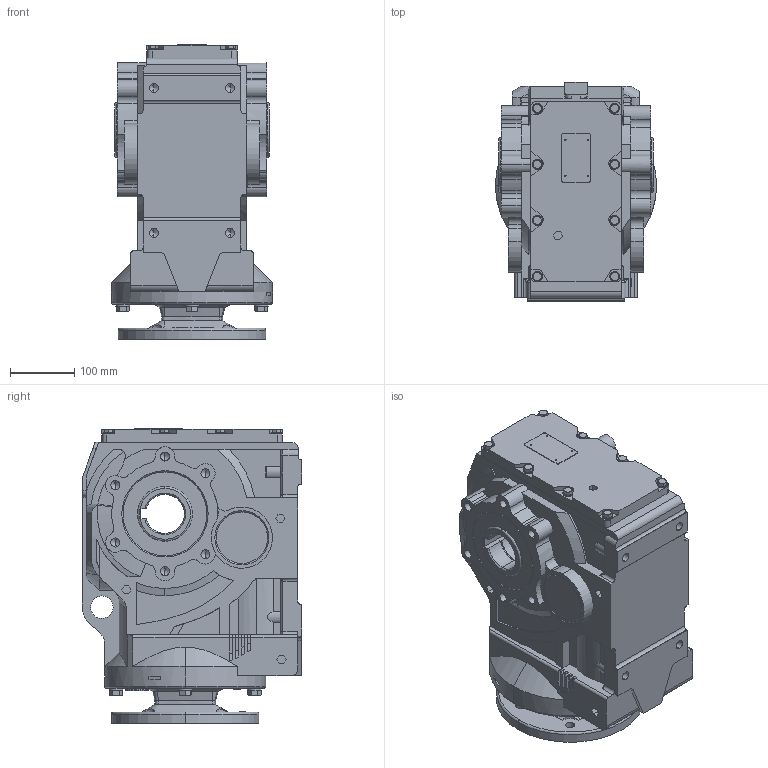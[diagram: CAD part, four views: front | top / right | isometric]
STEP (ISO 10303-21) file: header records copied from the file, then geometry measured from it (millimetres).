
FILE_DESCRIPTION (( 'STEP AP203' ), '1' );
FILE_NAME ('KAN87-182-4TC.STEP', '2022-04-09T03:22:25', ( 'user1' ), ( '' ), 'SwSTEP 2.0', 'SolidWorks 2012', '' );
FILE_SCHEMA (( 'CONFIG_CONTROL_DESIGN' ));
Products named in the file (1): KAN87-182-4TC
Bounding box: 250 x 340 x 457 mm (x, y, z)
Volume: 22593852.4 mm3; surface area: 778327.7 mm2
Topology: 1 solids, 1 shells, 1314 faces, 3514 edges, 2246 vertices
Faces by surface type: plane 581, cylinder 418, cone 145, bspline 143, torus 27
Entity records: 52665 total; most frequent: CARTESIAN_POINT 20628, ORIENTED_EDGE 6928, DIRECTION 6289, EDGE_CURVE 3464, VERTEX_POINT 2246, AXIS2_PLACEMENT_3D 2209, VECTOR 1871, LINE 1871
